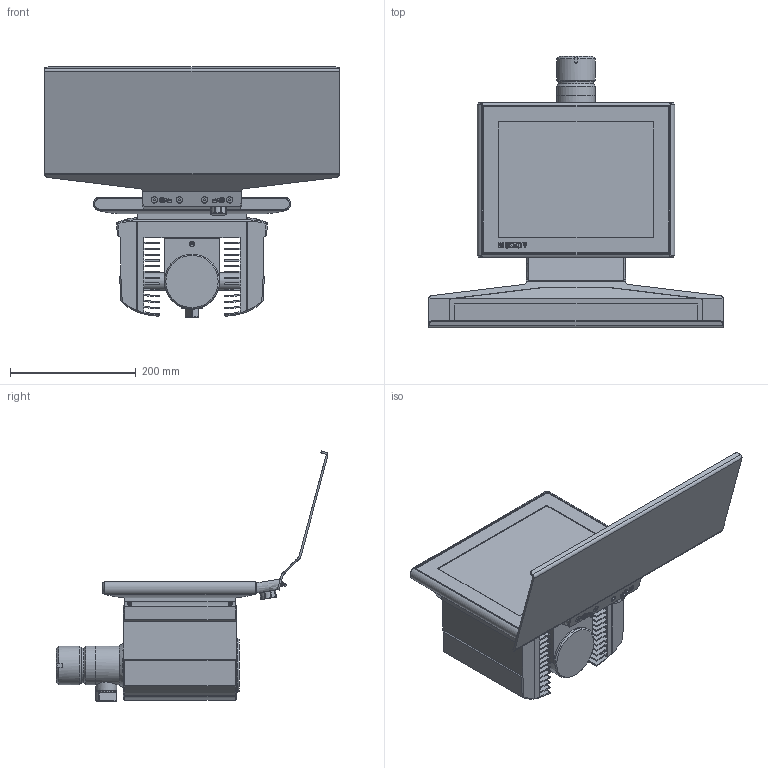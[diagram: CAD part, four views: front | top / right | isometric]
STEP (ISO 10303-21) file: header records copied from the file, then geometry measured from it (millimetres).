
FILE_DESCRIPTION(/* description */ (''),/* implementation_level */ '2;1');
FILE_NAME(/* name */ 'X:\0-inventor\0-3d-Teile\PC-Compo\solids\CP3xxx\0-Ausgabe\CP3212-M406.stp',/* time_stamp */ '2016-03-21T09:17:40+01:00',/* author */ ('christiankreuzer'),/* organization */ ('Design-AG'),/* preprocessor_version */ 'ST-DEVELOPER v16.1',/* originating_system */ 'Autodesk Inventor 2016',/* authorisation */ '');
FILE_SCHEMA (('AUTOMOTIVE_DESIGN { 1 0 10303 214 3 1 1 }'));
Products named in the file (3): CP3212-M406-Vorlage; CP32xx-Haube; CP3212-M406-Vorlage-Step
Assembly tree (2 placements, depth 2):
  CP3212-M406-Vorlage-Step
    CP3212-M406-Vorlage
    CP32xx-Haube
Bounding box: 468 x 432.86 x 397.95 mm (x, y, z)
Volume: 5823115.3 mm3; surface area: 998907.4 mm2
Topology: 6 solids, 13 shells, 2600 faces, 7073 edges, 4624 vertices
Faces by surface type: plane 1546, cylinder 715, cone 148, bspline 125, torus 51, sphere 15
Full cylindrical faces by diameter (mm): 1.03 x12, 1.5 x1, 1.8 x1, 1.9 x1, 4 x1, 4.2 x1, 4.5 x2, 4.917 x1, 5.4 x1, 5.5 x4, 5.7 x10, 6 x4, 7.6 x2, 7.9 x1, 8 x1, 8.5 x6, 8.8 x4, 10 x6, 16 x1, 18.548 x1, 20 x2, 20.4 x1, 20.917 x1, 21 x1, 21.5 x1, 21.516 x2, 21.7 x1, 22 x1, 22.9 x1, 23 x1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
Entity records: 87099 total; most frequent: CARTESIAN_POINT 20908, ORIENTED_EDGE 13526, DIRECTION 13001, EDGE_CURVE 6763, VERTEX_POINT 4502, LINE 4465, VECTOR 4465, AXIS2_PLACEMENT_3D 4268
